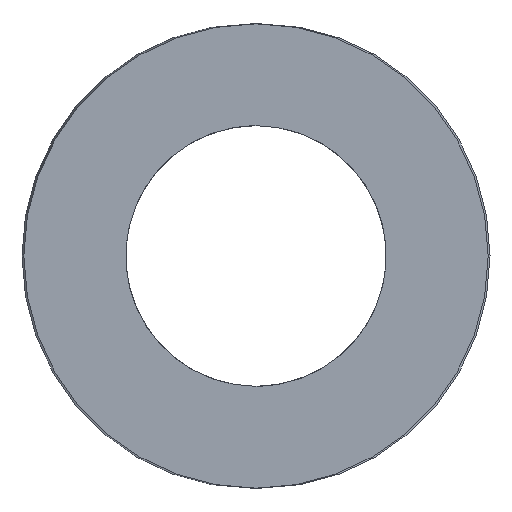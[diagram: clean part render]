
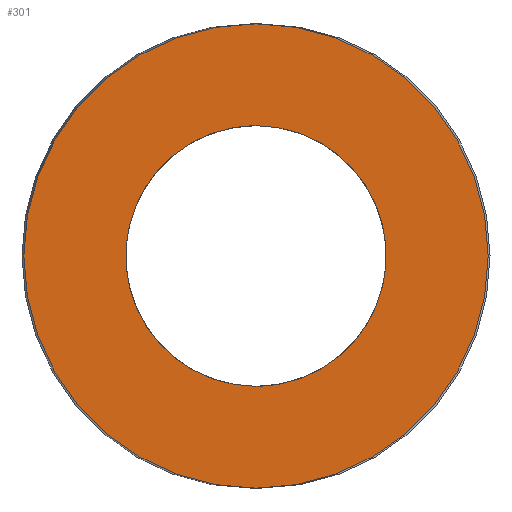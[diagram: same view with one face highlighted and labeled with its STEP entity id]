
A CAD part, left-side view. The second image highlights one B-rep face of the part: STEP entity #301.
In plain terms, the highlighted planar face has unit normal (-1, 0, 0).
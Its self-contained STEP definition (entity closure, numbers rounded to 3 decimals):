
#63=CARTESIAN_POINT('Vertex',(0.,15.5,0.)) ;
#77=CARTESIAN_POINT('Vertex',(0.,-15.5,0.)) ;
#80=CARTESIAN_POINT('Axis2P3D Location',(0.,0.,0.)) ;
#97=CARTESIAN_POINT('Axis2P3D Location',(0.,0.,0.)) ;
#232=CARTESIAN_POINT('Axis2P3D Location',(0.,7.75,0.)) ;
#242=CARTESIAN_POINT('Control Point',(0.,0.,-8.7)) ;
#243=CARTESIAN_POINT('Control Point',(0.,0.867,-8.7)) ;
#244=CARTESIAN_POINT('Control Point',(0.,1.734,-8.592)) ;
#245=CARTESIAN_POINT('Control Point',(0.,2.583,-8.376)) ;
#246=CARTESIAN_POINT('Control Point',(0.,4.209,-7.737)) ;
#247=CARTESIAN_POINT('Control Point',(0.,5.629,-6.719)) ;
#248=CARTESIAN_POINT('Control Point',(0.,6.272,-6.123)) ;
#249=CARTESIAN_POINT('Control Point',(0.,7.395,-4.785)) ;
#250=CARTESIAN_POINT('Control Point',(0.,8.156,-3.211)) ;
#251=CARTESIAN_POINT('Control Point',(0.,8.436,-2.381)) ;
#252=CARTESIAN_POINT('Control Point',(0.,8.783,-0.669)) ;
#253=CARTESIAN_POINT('Control Point',(0.,8.699,1.077)) ;
#254=CARTESIAN_POINT('Control Point',(0.,8.548,1.94)) ;
#255=CARTESIAN_POINT('Control Point',(0.,8.034,3.61)) ;
#256=CARTESIAN_POINT('Control Point',(0.,7.127,5.103)) ;
#257=CARTESIAN_POINT('Control Point',(0.,6.581,5.789)) ;
#258=CARTESIAN_POINT('Control Point',(0.,5.332,7.011)) ;
#259=CARTESIAN_POINT('Control Point',(0.,3.821,7.888)) ;
#260=CARTESIAN_POINT('Control Point',(0.,3.015,8.231)) ;
#261=CARTESIAN_POINT('Control Point',(0.,1.918,8.541)) ;
#262=CARTESIAN_POINT('Control Point',(0.,0.793,8.67)) ;
#263=CARTESIAN_POINT('Control Point',(0.,0.529,8.69)) ;
#264=CARTESIAN_POINT('Control Point',(0.,0.264,8.7)) ;
#265=CARTESIAN_POINT('Control Point',(0.,0.,8.7)) ;
#266=CARTESIAN_POINT('Vertex',(0.,0.,-8.7)) ;
#268=CARTESIAN_POINT('Vertex',(0.,0.,8.7)) ;
#272=CARTESIAN_POINT('Control Point',(0.,0.,8.7)) ;
#273=CARTESIAN_POINT('Control Point',(0.,-0.867,8.7)) ;
#274=CARTESIAN_POINT('Control Point',(0.,-1.734,8.592)) ;
#275=CARTESIAN_POINT('Control Point',(0.,-2.583,8.376)) ;
#276=CARTESIAN_POINT('Control Point',(0.,-4.209,7.737)) ;
#277=CARTESIAN_POINT('Control Point',(0.,-5.629,6.719)) ;
#278=CARTESIAN_POINT('Control Point',(0.,-6.272,6.123)) ;
#279=CARTESIAN_POINT('Control Point',(0.,-7.395,4.785)) ;
#280=CARTESIAN_POINT('Control Point',(0.,-8.156,3.211)) ;
#281=CARTESIAN_POINT('Control Point',(0.,-8.436,2.381)) ;
#282=CARTESIAN_POINT('Control Point',(0.,-8.783,0.669)) ;
#283=CARTESIAN_POINT('Control Point',(0.,-8.699,-1.077)) ;
#284=CARTESIAN_POINT('Control Point',(0.,-8.548,-1.94)) ;
#285=CARTESIAN_POINT('Control Point',(0.,-8.034,-3.61)) ;
#286=CARTESIAN_POINT('Control Point',(0.,-7.127,-5.103)) ;
#287=CARTESIAN_POINT('Control Point',(0.,-6.581,-5.789)) ;
#288=CARTESIAN_POINT('Control Point',(0.,-5.332,-7.011)) ;
#289=CARTESIAN_POINT('Control Point',(0.,-3.821,-7.888)) ;
#290=CARTESIAN_POINT('Control Point',(0.,-3.015,-8.231)) ;
#291=CARTESIAN_POINT('Control Point',(0.,-1.918,-8.541)) ;
#292=CARTESIAN_POINT('Control Point',(0.,-0.793,-8.67)) ;
#293=CARTESIAN_POINT('Control Point',(0.,-0.529,-8.69)) ;
#294=CARTESIAN_POINT('Control Point',(0.,-0.264,-8.7)) ;
#295=CARTESIAN_POINT('Control Point',(0.,0.,-8.7)) ;
#81=DIRECTION('Axis2P3D Direction',(1.,-0.,0.)) ;
#98=DIRECTION('Axis2P3D Direction',(1.,-0.,0.)) ;
#233=DIRECTION('Axis2P3D Direction',(-1.,0.,0.)) ;
#234=DIRECTION('Axis2P3D XDirection',(0.,1.,0.)) ;
#82=AXIS2_PLACEMENT_3D('Circle Axis2P3D',#80,#81,$) ;
#99=AXIS2_PLACEMENT_3D('Circle Axis2P3D',#97,#98,$) ;
#235=AXIS2_PLACEMENT_3D('Plane Axis2P3D',#232,#233,#234) ;
#238=ORIENTED_EDGE('',*,*,#84,.T.) ;
#239=ORIENTED_EDGE('',*,*,#101,.T.) ;
#298=ORIENTED_EDGE('',*,*,#270,.T.) ;
#299=ORIENTED_EDGE('',*,*,#296,.T.) ;
#300=FACE_BOUND('',#297,.T.) ;
#301=ADVANCED_FACE('392-B32-044',(#240,#300),#236,.T.) ;
#241=B_SPLINE_CURVE_WITH_KNOTS('',5,(#242,#243,#244,#245,#246,#247,#248,#249,#250,#251,#252,#253,#254,#255,#256,#257,#258,#259,#260,#261,#262,#263,#264,#265),.UNSPECIFIED.,.F.,.U.,(6,3,3,3,3,3,3,6),(0.,6.131,12.261,18.392,24.522,30.653,36.783,38.652),.UNSPECIFIED.) ;
#271=B_SPLINE_CURVE_WITH_KNOTS('',5,(#272,#273,#274,#275,#276,#277,#278,#279,#280,#281,#282,#283,#284,#285,#286,#287,#288,#289,#290,#291,#292,#293,#294,#295),.UNSPECIFIED.,.F.,.U.,(6,3,3,3,3,3,3,6),(0.,6.131,12.261,18.392,24.522,30.653,36.783,38.652),.UNSPECIFIED.) ;
#83=CIRCLE('generated circle',#82,15.5) ;
#100=CIRCLE('generated circle',#99,15.5) ;
#84=EDGE_CURVE('',#64,#78,#83,.F.) ;
#101=EDGE_CURVE('',#78,#64,#100,.F.) ;
#270=EDGE_CURVE('',#267,#269,#241,.T.) ;
#296=EDGE_CURVE('',#269,#267,#271,.T.) ;
#237=EDGE_LOOP('',(#238,#239)) ;
#297=EDGE_LOOP('',(#298,#299)) ;
#240=FACE_OUTER_BOUND('',#237,.T.) ;
#236=PLANE('Plane',#235) ;
#64=VERTEX_POINT('',#63) ;
#78=VERTEX_POINT('',#77) ;
#267=VERTEX_POINT('',#266) ;
#269=VERTEX_POINT('',#268) ;
